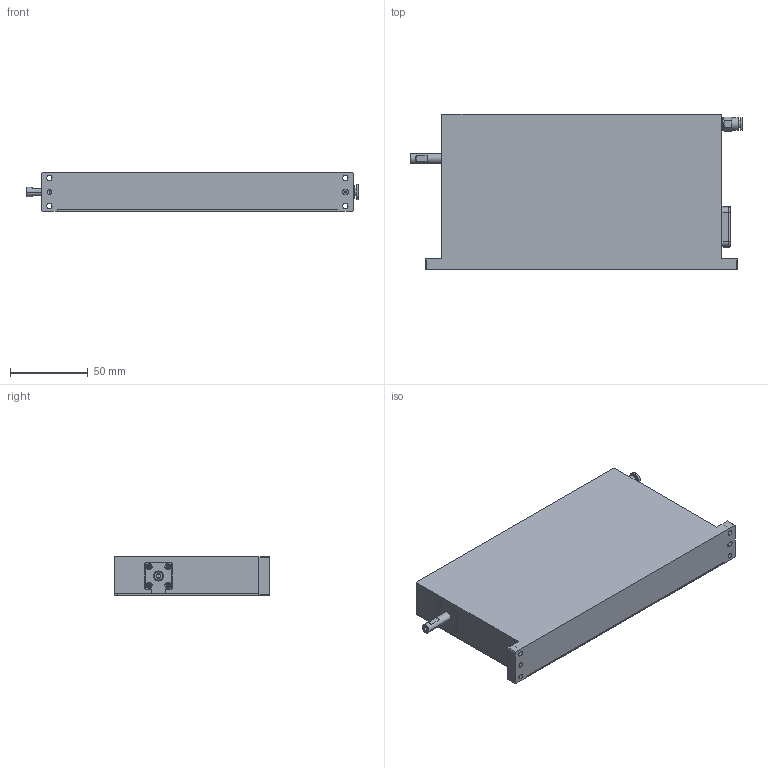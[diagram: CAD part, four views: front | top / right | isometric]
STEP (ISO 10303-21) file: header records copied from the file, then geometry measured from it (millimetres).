
FILE_DESCRIPTION (( 'STEP AP203' ), '1' );
FILE_NAME ('Z-Mod-LRA-25-25.STEP', '2023-04-06T06:03:09', ( '' ), ( '' ), 'SwSTEP 2.0', 'SolidWorks 2020', '' );
FILE_SCHEMA (( 'CONFIG_CONTROL_DESIGN' ));
Length unit declared in the file: millimetre
Products named in the file (1): Z-Mod-LRA-25-25
Bounding box: 213.1 x 100 x 25 mm (x, y, z)
Volume: 453125.5 mm3; surface area: 94992 mm2
Topology: 26 solids, 26 shells, 988 faces, 2465 edges, 1591 vertices
Faces by surface type: plane 657, cylinder 211, cone 110, bspline 8, torus 2
Entity records: 29503 total; most frequent: CARTESIAN_POINT 5572, ORIENTED_EDGE 4898, DIRECTION 4860, EDGE_CURVE 2449, VECTOR 1862, LINE 1862, VERTEX_POINT 1591, AXIS2_PLACEMENT_3D 1499
